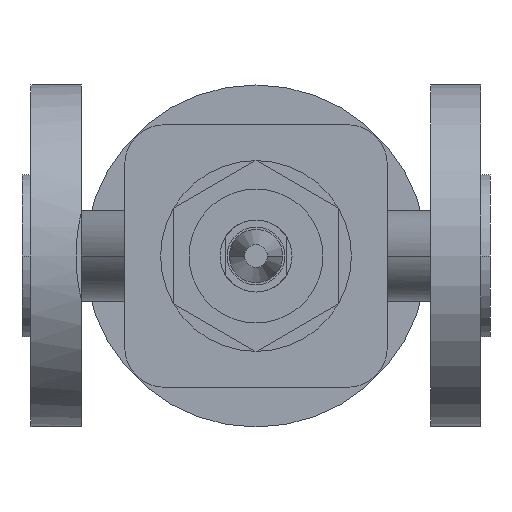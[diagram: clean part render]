
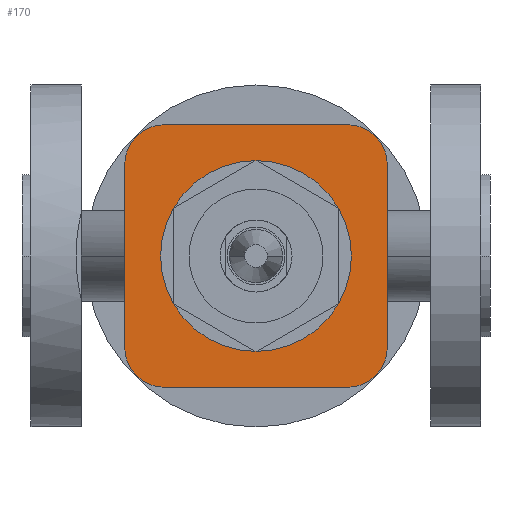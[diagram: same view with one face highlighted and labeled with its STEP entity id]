
A CAD part, front view. The second image highlights one B-rep face of the part: STEP entity #170.
In plain terms, the highlighted planar face has unit normal (0, -1, 0).
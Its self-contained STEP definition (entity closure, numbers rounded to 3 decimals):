
#170 = ADVANCED_FACE( '', ( #429, #430 ), #431, .T. );
#429 = FACE_OUTER_BOUND( '', #753, .T. );
#430 = FACE_BOUND( '', #754, .T. );
#431 = PLANE( '', #755 );
#753 = EDGE_LOOP( '', ( #1589, #1590, #1591, #1592, #1593, #1594, #1595, #1596 ) );
#754 = EDGE_LOOP( '', ( #1597, #1598 ) );
#755 = AXIS2_PLACEMENT_3D( '', #1599, #1600, #1601 );
#1589 = ORIENTED_EDGE( '', *, *, #2218, .T. );
#1590 = ORIENTED_EDGE( '', *, *, #2207, .T. );
#1591 = ORIENTED_EDGE( '', *, *, #2198, .T. );
#1592 = ORIENTED_EDGE( '', *, *, #2189, .T. );
#1593 = ORIENTED_EDGE( '', *, *, #2183, .T. );
#1594 = ORIENTED_EDGE( '', *, *, #2227, .T. );
#1595 = ORIENTED_EDGE( '', *, *, #2224, .T. );
#1596 = ORIENTED_EDGE( '', *, *, #2221, .T. );
#1597 = ORIENTED_EDGE( '', *, *, #2033, .F. );
#1598 = ORIENTED_EDGE( '', *, *, #2233, .F. );
#1599 = CARTESIAN_POINT( '', ( 27.75, -69.5, 0. ) );
#1600 = DIRECTION( '', ( 0., -1., 0. ) );
#1601 = DIRECTION( '', ( -1., 0., 0. ) );
#2033 = EDGE_CURVE( '', #2440, #2443, #2444, .T. );
#2183 = EDGE_CURVE( '', #2694, #2692, #2695, .T. );
#2189 = EDGE_CURVE( '', #2704, #2694, #2705, .T. );
#2198 = EDGE_CURVE( '', #2719, #2704, #2720, .T. );
#2207 = EDGE_CURVE( '', #2734, #2719, #2735, .T. );
#2218 = EDGE_CURVE( '', #2751, #2734, #2752, .T. );
#2221 = EDGE_CURVE( '', #2756, #2751, #2757, .T. );
#2224 = EDGE_CURVE( '', #2761, #2756, #2762, .T. );
#2227 = EDGE_CURVE( '', #2692, #2761, #2765, .T. );
#2233 = EDGE_CURVE( '', #2443, #2440, #2771, .T. );
#2440 = VERTEX_POINT( '', #3163 );
#2443 = VERTEX_POINT( '', #3167 );
#2444 = CIRCLE( '', #3168, 26.5 );
#2692 = VERTEX_POINT( '', #3549 );
#2694 = VERTEX_POINT( '', #3552 );
#2695 = LINE( '', #3553, #3554 );
#2704 = VERTEX_POINT( '', #3565 );
#2705 = CIRCLE( '', #3566, 11. );
#2719 = VERTEX_POINT( '', #3586 );
#2720 = LINE( '', #3587, #3588 );
#2734 = VERTEX_POINT( '', #3607 );
#2735 = CIRCLE( '', #3608, 11. );
#2751 = VERTEX_POINT( '', #3647 );
#2752 = LINE( '', #3648, #3649 );
#2756 = VERTEX_POINT( '', #3654 );
#2757 = CIRCLE( '', #3655, 11. );
#2761 = VERTEX_POINT( '', #3661 );
#2762 = LINE( '', #3662, #3663 );
#2765 = CIRCLE( '', #3667, 11. );
#2771 = CIRCLE( '', #3674, 26.5 );
#3163 = CARTESIAN_POINT( '', ( 38.5, -69.5, 0. ) );
#3167 = CARTESIAN_POINT( '', ( 91.5, -69.5, 0. ) );
#3168 = AXIS2_PLACEMENT_3D( '', #3986, #3987, #3988 );
#3549 = CARTESIAN_POINT( '', ( 101.456, -69.5, 25.456 ) );
#3552 = CARTESIAN_POINT( '', ( 101.456, -69.5, -25.456 ) );
#3553 = CARTESIAN_POINT( '', ( 101.456, -69.5, 12.728 ) );
#3554 = VECTOR( '', #4288, 1. );
#3565 = CARTESIAN_POINT( '', ( 90.456, -69.5, -36.456 ) );
#3566 = AXIS2_PLACEMENT_3D( '', #4300, #4301, #4302 );
#3586 = CARTESIAN_POINT( '', ( 39.544, -69.5, -36.456 ) );
#3587 = CARTESIAN_POINT( '', ( 46.375, -69.5, -36.456 ) );
#3588 = VECTOR( '', #4315, 1. );
#3607 = CARTESIAN_POINT( '', ( 28.544, -69.5, -25.456 ) );
#3608 = AXIS2_PLACEMENT_3D( '', #4330, #4331, #4332 );
#3647 = CARTESIAN_POINT( '', ( 28.544, -69.5, 25.456 ) );
#3648 = CARTESIAN_POINT( '', ( 28.544, -69.5, -12.728 ) );
#3649 = VECTOR( '', #4348, 1. );
#3654 = CARTESIAN_POINT( '', ( 39.544, -69.5, 36.456 ) );
#3655 = AXIS2_PLACEMENT_3D( '', #4353, #4354, #4355 );
#3661 = CARTESIAN_POINT( '', ( 90.456, -69.5, 36.456 ) );
#3662 = CARTESIAN_POINT( '', ( 33.647, -69.5, 36.456 ) );
#3663 = VECTOR( '', #4358, 1. );
#3667 = AXIS2_PLACEMENT_3D( '', #4363, #4364, #4365 );
#3674 = AXIS2_PLACEMENT_3D( '', #4379, #4380, #4381 );
#3986 = CARTESIAN_POINT( '', ( 65., -69.5, 0. ) );
#3987 = DIRECTION( '', ( 0., -1., 0. ) );
#3988 = DIRECTION( '', ( -1., 0., 0. ) );
#4288 = DIRECTION( '', ( 0., 0., 1. ) );
#4300 = CARTESIAN_POINT( '', ( 90.456, -69.5, -25.456 ) );
#4301 = DIRECTION( '', ( 0., -1., 0. ) );
#4302 = DIRECTION( '', ( 1., 0., 0. ) );
#4315 = DIRECTION( '', ( 1., 0., 0. ) );
#4330 = CARTESIAN_POINT( '', ( 39.544, -69.5, -25.456 ) );
#4331 = DIRECTION( '', ( 0., -1., 0. ) );
#4332 = DIRECTION( '', ( 0., 0., -1. ) );
#4348 = DIRECTION( '', ( 0., 0., -1. ) );
#4353 = CARTESIAN_POINT( '', ( 39.544, -69.5, 25.456 ) );
#4354 = DIRECTION( '', ( 0., -1., 0. ) );
#4355 = DIRECTION( '', ( -1., 0., 0. ) );
#4358 = DIRECTION( '', ( -1., 0., 0. ) );
#4363 = CARTESIAN_POINT( '', ( 90.456, -69.5, 25.456 ) );
#4364 = DIRECTION( '', ( 0., -1., 0. ) );
#4365 = DIRECTION( '', ( 0., 0., 1. ) );
#4379 = CARTESIAN_POINT( '', ( 65., -69.5, 0. ) );
#4380 = DIRECTION( '', ( 0., -1., 0. ) );
#4381 = DIRECTION( '', ( -1., 0., 0. ) );
